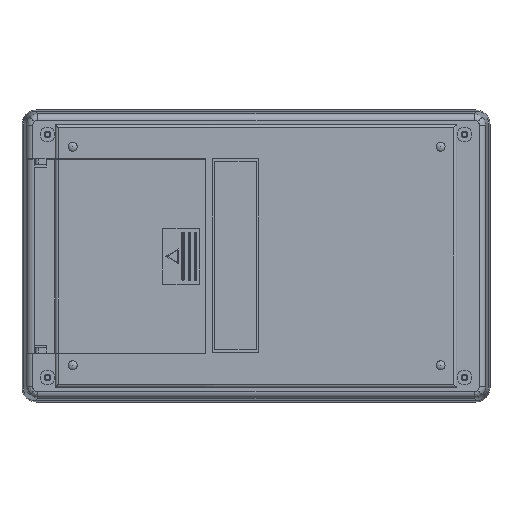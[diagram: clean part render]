
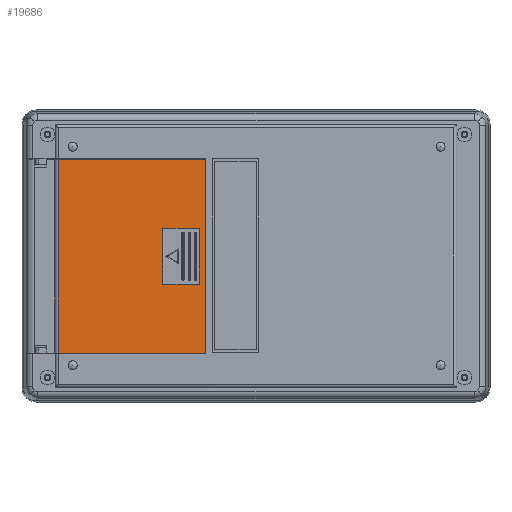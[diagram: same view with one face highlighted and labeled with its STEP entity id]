
A CAD part, front view. The second image highlights one B-rep face of the part: STEP entity #19686.
In plain terms, the highlighted planar face has unit normal (0, -1, 0).
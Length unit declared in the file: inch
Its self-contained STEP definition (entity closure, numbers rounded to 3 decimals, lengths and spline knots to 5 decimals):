
#248 = CARTESIAN_POINT ( 'NONE',  ( 1.52362, 0., 0.34449 ) ) ;
#309 = EDGE_CURVE ( 'NONE', #5434, #4477, #10065, .T. ) ;
#346 = ORIENTED_EDGE ( 'NONE', *, *, #12978, .F. ) ;
#972 = CARTESIAN_POINT ( 'NONE',  ( 0.99213, 0., -1.19685 ) ) ;
#1601 = CARTESIAN_POINT ( 'NONE',  ( 1.52362, 0., -0.34449 ) ) ;
#1695 = DIRECTION ( 'NONE',  ( 1., 0., 0. ) ) ;
#2056 = EDGE_LOOP ( 'NONE', ( #10104, #18835, #346, #5179 ) ) ;
#2171 = VERTEX_POINT ( 'NONE', #14084 ) ;
#2261 = CARTESIAN_POINT ( 'NONE',  ( 1.52362, 0., -0.34449 ) ) ;
#2354 = VERTEX_POINT ( 'NONE', #24415 ) ;
#2656 = VECTOR ( 'NONE', #13632, 39.37008 ) ;
#2904 = VERTEX_POINT ( 'NONE', #23808 ) ;
#3096 = VECTOR ( 'NONE', #1695, 39.37008 ) ;
#3710 = EDGE_CURVE ( 'NONE', #4477, #2904, #10679, .T. ) ;
#4477 = VERTEX_POINT ( 'NONE', #8572 ) ;
#4980 = VECTOR ( 'NONE', #15124, 39.37008 ) ;
#4998 = VECTOR ( 'NONE', #18201, 39.37008 ) ;
#5179 = ORIENTED_EDGE ( 'NONE', *, *, #9322, .F. ) ;
#5434 = VERTEX_POINT ( 'NONE', #6561 ) ;
#5557 = VECTOR ( 'NONE', #22043, 39.37008 ) ;
#6050 = FACE_OUTER_BOUND ( 'NONE', #17002, .T. ) ;
#6561 = CARTESIAN_POINT ( 'NONE',  ( 0.99213, 0., 1.19685 ) ) ;
#7141 = EDGE_CURVE ( 'NONE', #8981, #2354, #12265, .T. ) ;
#8167 = ORIENTED_EDGE ( 'NONE', *, *, #3710, .T. ) ;
#8284 = VERTEX_POINT ( 'NONE', #1601 ) ;
#8572 = CARTESIAN_POINT ( 'NONE',  ( 0.99213, 0., -1.19685 ) ) ;
#8685 = CARTESIAN_POINT ( 'NONE',  ( 1.52362, 0., 0.34449 ) ) ;
#8822 = LINE ( 'NONE', #24530, #3096 ) ;
#8981 = VERTEX_POINT ( 'NONE', #10066 ) ;
#9322 = EDGE_CURVE ( 'NONE', #2354, #2171, #19499, .T. ) ;
#9347 = CARTESIAN_POINT ( 'NONE',  ( 0.99213, 0., 1.19685 ) ) ;
#9817 = EDGE_CURVE ( 'NONE', #12194, #2904, #22172, .T. ) ;
#10008 = DIRECTION ( 'NONE',  ( 0., 0., 1. ) ) ;
#10047 = LINE ( 'NONE', #8685, #5557 ) ;
#10065 = LINE ( 'NONE', #9347, #4980 ) ;
#10066 = CARTESIAN_POINT ( 'NONE',  ( 1.52362, 0., 0.34449 ) ) ;
#10072 = LINE ( 'NONE', #2261, #24728 ) ;
#10104 = ORIENTED_EDGE ( 'NONE', *, *, #7141, .F. ) ;
#10679 = LINE ( 'NONE', #972, #4998 ) ;
#11345 = CARTESIAN_POINT ( 'NONE',  ( 2.81496, 0., 1.19685 ) ) ;
#11860 = DIRECTION ( 'NONE',  ( 0., 1., 0. ) ) ;
#12006 = VECTOR ( 'NONE', #17012, 39.37008 ) ;
#12194 = VERTEX_POINT ( 'NONE', #19314 ) ;
#12265 = LINE ( 'NONE', #248, #2656 ) ;
#12978 = EDGE_CURVE ( 'NONE', #2171, #8284, #10072, .T. ) ;
#13632 = DIRECTION ( 'NONE',  ( -1., 0., 0. ) ) ;
#14084 = CARTESIAN_POINT ( 'NONE',  ( 1.07087, 0., -0.34449 ) ) ;
#14363 = EDGE_CURVE ( 'NONE', #5434, #12194, #8822, .T. ) ;
#14901 = ORIENTED_EDGE ( 'NONE', *, *, #14363, .F. ) ;
#15124 = DIRECTION ( 'NONE',  ( 0., 0., -1. ) ) ;
#15762 = DIRECTION ( 'NONE',  ( 1., 0., 0. ) ) ;
#16220 = FACE_BOUND ( 'NONE', #2056, .T. ) ;
#16724 = AXIS2_PLACEMENT_3D ( 'NONE', #19536, #11860, #10008 ) ;
#17002 = EDGE_LOOP ( 'NONE', ( #8167, #21491, #14901, #19820 ) ) ;
#17012 = DIRECTION ( 'NONE',  ( 0., 0., -1. ) ) ;
#17578 = EDGE_CURVE ( 'NONE', #8284, #8981, #10047, .T. ) ;
#17628 = PLANE ( 'NONE',  #16724 ) ;
#18201 = DIRECTION ( 'NONE',  ( 1., 0., 0. ) ) ;
#18321 = VECTOR ( 'NONE', #22608, 39.37008 ) ;
#18835 = ORIENTED_EDGE ( 'NONE', *, *, #17578, .F. ) ;
#19314 = CARTESIAN_POINT ( 'NONE',  ( 2.81496, 0., 1.19685 ) ) ;
#19499 = LINE ( 'NONE', #20746, #18321 ) ;
#19536 = CARTESIAN_POINT ( 'NONE',  ( 0.99213, 0., 1.19685 ) ) ;
#19686 = ADVANCED_FACE ( 'NONE', ( #16220, #6050 ), #17628, .F. ) ;
#19820 = ORIENTED_EDGE ( 'NONE', *, *, #309, .T. ) ;
#20746 = CARTESIAN_POINT ( 'NONE',  ( 1.07087, 0., 0.34449 ) ) ;
#21491 = ORIENTED_EDGE ( 'NONE', *, *, #9817, .F. ) ;
#22043 = DIRECTION ( 'NONE',  ( 0., 0., 1. ) ) ;
#22172 = LINE ( 'NONE', #11345, #12006 ) ;
#22608 = DIRECTION ( 'NONE',  ( 0., 0., -1. ) ) ;
#23808 = CARTESIAN_POINT ( 'NONE',  ( 2.81496, 0., -1.19685 ) ) ;
#24415 = CARTESIAN_POINT ( 'NONE',  ( 1.07087, 0., 0.34449 ) ) ;
#24530 = CARTESIAN_POINT ( 'NONE',  ( 0.99213, 0., 1.19685 ) ) ;
#24728 = VECTOR ( 'NONE', #15762, 39.37008 ) ;
